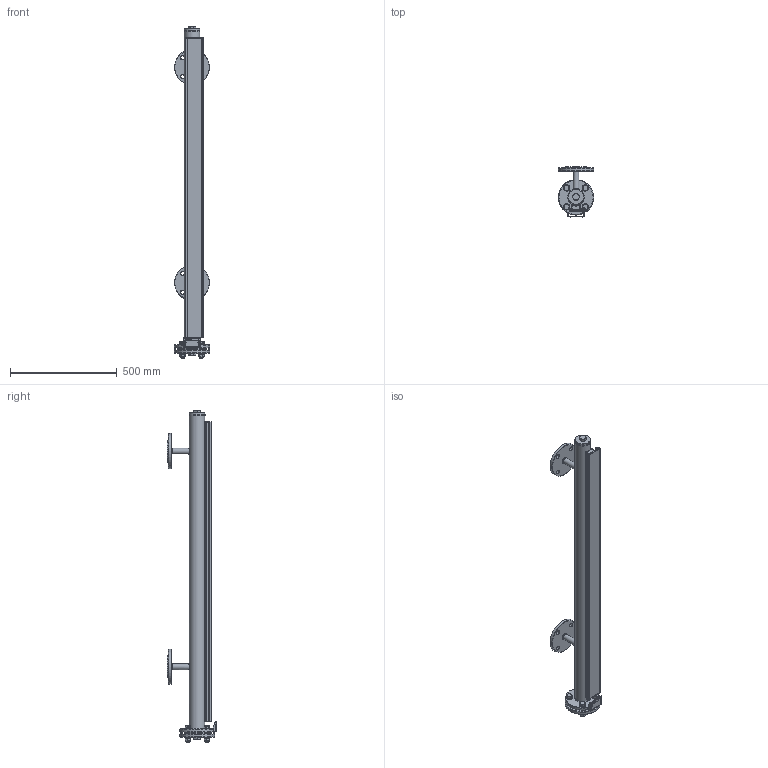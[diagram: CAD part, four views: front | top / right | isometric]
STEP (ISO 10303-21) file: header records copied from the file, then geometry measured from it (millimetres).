
FILE_DESCRIPTION(/* description */ (''),/* implementation_level */ '2;1');
FILE_NAME(/* name */ 'I:\Raj\3D\készülék rajzok\Összeállított készülékek\ML\ML_E_2.stp',/* time_stamp */ '2015-10-21T14:42:51+02:00',/* author */ ('aantal'),/* organization */ (''),/* preprocessor_version */ 'ST-DEVELOPER v15.6',/* originating_system */ 'Autodesk Inventor 2015',/* authorisation */ '');
FILE_SCHEMA (('AUTOMOTIVE_DESIGN { 1 0 10303 214 3 1 1 }'));
Length unit declared in the file: millimetre
Products named in the file (14): Cső 2E; tábla1; DN50PN40; ISO 4017 - M16 x 65ISO; ISO 7089 - 16 - 140 HV(1); ISO 4032 - M16ISO; D50 PN40 csav; ISO 4017 - M20 x 40ISO; kijelző; kijelzővégzáró; ISO 7045 - M3 x 5 - 4.8 - ZISO; üveg; mérőkijelző; ML_E_2
Bounding box: 165 x 232 x 1554.5 mm (x, y, z)
Volume: 3601443.7 mm3; surface area: 1696113.1 mm2
Topology: 33 solids, 33 shells, 946 faces, 2321 edges, 1492 vertices
Faces by surface type: plane 440, cone 227, cylinder 222, torus 45, sphere 10, bspline 2
Full cylindrical faces by diameter (mm): 2.729 x8, 2.9 x4, 3 x8, 13.835 x4, 16 x4, 17 x8, 18 x16, 20 x3, 20.5 x2, 21 x1, 22.49 x4, 26.9 x2, 28.19 x2, 30 x8, 67 x1, 73 x2, 74 x1, 102 x4, 165 x4
Entity records: 13950 total; most frequent: CARTESIAN_POINT 3003, DIRECTION 2300, ORIENTED_EDGE 2034, EDGE_CURVE 1017, AXIS2_PLACEMENT_3D 885, VERTEX_POINT 719, EDGE_LOOP 630, LINE 530
